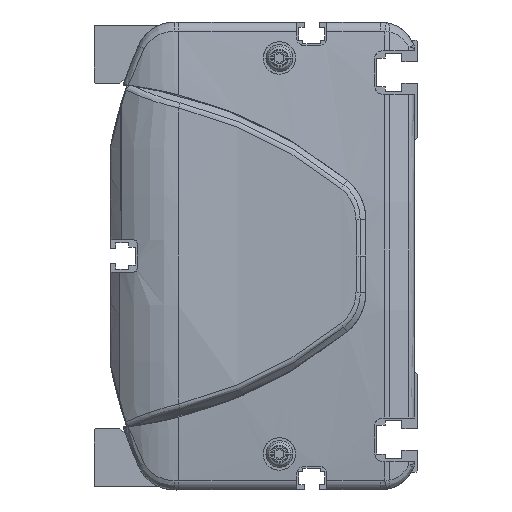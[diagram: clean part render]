
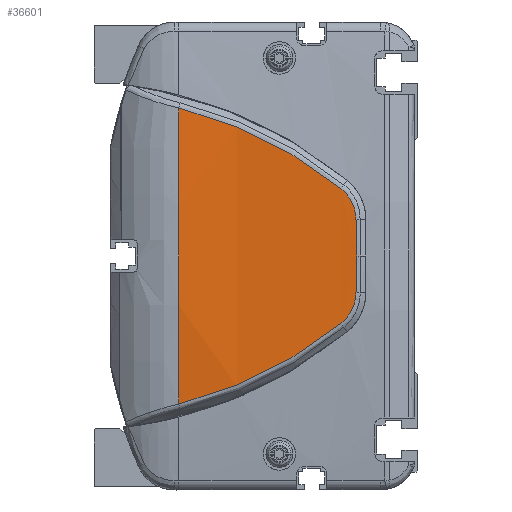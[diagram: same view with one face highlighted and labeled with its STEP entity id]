
A CAD part, left-side view. The second image highlights one B-rep face of the part: STEP entity #36601.
In plain terms, the highlighted cylindrical face has radius 500 mm (diameter 1000 mm), a partial arc.
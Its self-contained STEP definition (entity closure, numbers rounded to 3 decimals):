
#32830=CARTESIAN_POINT('',(486.,66.362,0.));
#32831=DIRECTION('',(0.,-1.,0.));
#32832=DIRECTION('',(-0.997,0.,0.082));
#32833=AXIS2_PLACEMENT_3D('',#32830,#32831,#32832);
#33716=CARTESIAN_POINT('',(-13.648,21.313,
-18.759));
#33717=CARTESIAN_POINT('',(-13.449,27.904,
-24.058));
#33718=CARTESIAN_POINT('',(-12.934,42.195,
-33.27));
#33719=CARTESIAN_POINT('',(-12.471,58.156,
-39.127));
#33720=CARTESIAN_POINT('',(-12.306,66.362,
-41.121));
#33722=CARTESIAN_POINT('',(-12.306,66.362,
41.121));
#33723=CARTESIAN_POINT('',(-12.471,58.156,
39.127));
#33724=CARTESIAN_POINT('',(-12.934,42.195,
33.27));
#33725=CARTESIAN_POINT('',(-13.449,27.904,
24.058));
#33726=CARTESIAN_POINT('',(-13.648,21.313,
18.759));
#33728=CARTESIAN_POINT('',(-13.648,21.313,
18.759));
#33729=CARTESIAN_POINT('',(-13.686,20.035,
17.736));
#33730=CARTESIAN_POINT('',(-13.779,17.936,
15.107));
#33731=CARTESIAN_POINT('',(-13.863,17.152,
11.827));
#33732=CARTESIAN_POINT('',(-13.896,17.124,
10.178));
#33734=CARTESIAN_POINT('',(-13.896,17.124,
10.178));
#33735=CARTESIAN_POINT('',(-13.92,17.107,
9.025));
#33736=CARTESIAN_POINT('',(-13.959,17.067,
6.732));
#33737=CARTESIAN_POINT('',(-13.993,16.98,
3.338));
#33738=CARTESIAN_POINT('',(-14.,16.898,
1.107));
#33739=CARTESIAN_POINT('',(-14.,16.849,
0.));
#33741=CARTESIAN_POINT('',(-14.,16.849,
0.));
#33742=CARTESIAN_POINT('',(-14.,16.898,
-1.107));
#33743=CARTESIAN_POINT('',(-13.993,16.98,
-3.338));
#33744=CARTESIAN_POINT('',(-13.959,17.067,
-6.731));
#33745=CARTESIAN_POINT('',(-13.92,17.107,
-9.026));
#33746=CARTESIAN_POINT('',(-13.896,17.124,
-10.18));
#33748=CARTESIAN_POINT('',(-13.896,17.124,
-10.18));
#33749=CARTESIAN_POINT('',(-13.863,17.152,
-11.828));
#33750=CARTESIAN_POINT('',(-13.779,17.937,
-15.109));
#33751=CARTESIAN_POINT('',(-13.686,20.035,
-17.736));
#33752=CARTESIAN_POINT('',(-13.648,21.313,
-18.759));
#34423=VERTEX_POINT('',#33716);
#34424=VERTEX_POINT('',#33720);
#34425=CARTESIAN_POINT('',(-12.306,66.362,
41.121));
#34426=VERTEX_POINT('',#34425);
#34427=VERTEX_POINT('',#33726);
#34428=VERTEX_POINT('',#33732);
#34429=VERTEX_POINT('',#33739);
#34430=VERTEX_POINT('',#33746);
#36582=CARTESIAN_POINT('',(486.,8.006,0.));
#36583=DIRECTION('',(0.,1.,0.));
#36584=DIRECTION('',(1.,0.,0.));
#36585=AXIS2_PLACEMENT_3D('',#36582,#36583,#36584);
#36586=CYLINDRICAL_SURFACE('',#36585,500.);
#36588=ORIENTED_EDGE('',*,*,#36587,.T.);
#36589=ORIENTED_EDGE('',*,*,#35225,.F.);
#36591=ORIENTED_EDGE('',*,*,#36590,.T.);
#36593=ORIENTED_EDGE('',*,*,#36592,.T.);
#36595=ORIENTED_EDGE('',*,*,#36594,.T.);
#36597=ORIENTED_EDGE('',*,*,#36596,.T.);
#36598=ORIENTED_EDGE('',*,*,#36572,.T.);
#36599=EDGE_LOOP('',(#36588,#36589,#36591,#36593,#36595,#36597,#36598));
#36600=FACE_OUTER_BOUND('',#36599,.F.);
#36601=ADVANCED_FACE('',(#36600),#36586,.T.);
#32834=CIRCLE('',#32833,500.);
#33721=B_SPLINE_CURVE_WITH_KNOTS('',3,(#33716,#33717,#33718,#33719,#33720),
.UNSPECIFIED.,.F.,.F.,(4,1,4),(0.,0.5,1.),.UNSPECIFIED.);
#33727=B_SPLINE_CURVE_WITH_KNOTS('',3,(#33722,#33723,#33724,#33725,#33726),
.UNSPECIFIED.,.F.,.F.,(4,1,4),(0.,0.5,1.),.UNSPECIFIED.);
#33733=B_SPLINE_CURVE_WITH_KNOTS('',3,(#33728,#33729,#33730,#33731,#33732),
.UNSPECIFIED.,.F.,.F.,(4,1,4),(0.,0.5,1.),.UNSPECIFIED.);
#33740=B_SPLINE_CURVE_WITH_KNOTS('',3,(#33734,#33735,#33736,#33737,#33738,
#33739),.UNSPECIFIED.,.F.,.F.,(4,1,1,4),(0.,0.333,
0.667,1.),.UNSPECIFIED.);
#33747=B_SPLINE_CURVE_WITH_KNOTS('',3,(#33741,#33742,#33743,#33744,#33745,
#33746),.UNSPECIFIED.,.F.,.F.,(4,1,1,4),(0.,0.333,
0.667,1.),.UNSPECIFIED.);
#33753=B_SPLINE_CURVE_WITH_KNOTS('',3,(#33748,#33749,#33750,#33751,#33752),
.UNSPECIFIED.,.F.,.F.,(4,1,4),(0.,0.5,1.),.UNSPECIFIED.);
#35225=EDGE_CURVE('',#34426,#34424,#32834,.T.);
#36572=EDGE_CURVE('',#34430,#34423,#33753,.T.);
#36587=EDGE_CURVE('',#34423,#34424,#33721,.T.);
#36590=EDGE_CURVE('',#34426,#34427,#33727,.T.);
#36592=EDGE_CURVE('',#34427,#34428,#33733,.T.);
#36594=EDGE_CURVE('',#34428,#34429,#33740,.T.);
#36596=EDGE_CURVE('',#34429,#34430,#33747,.T.);
